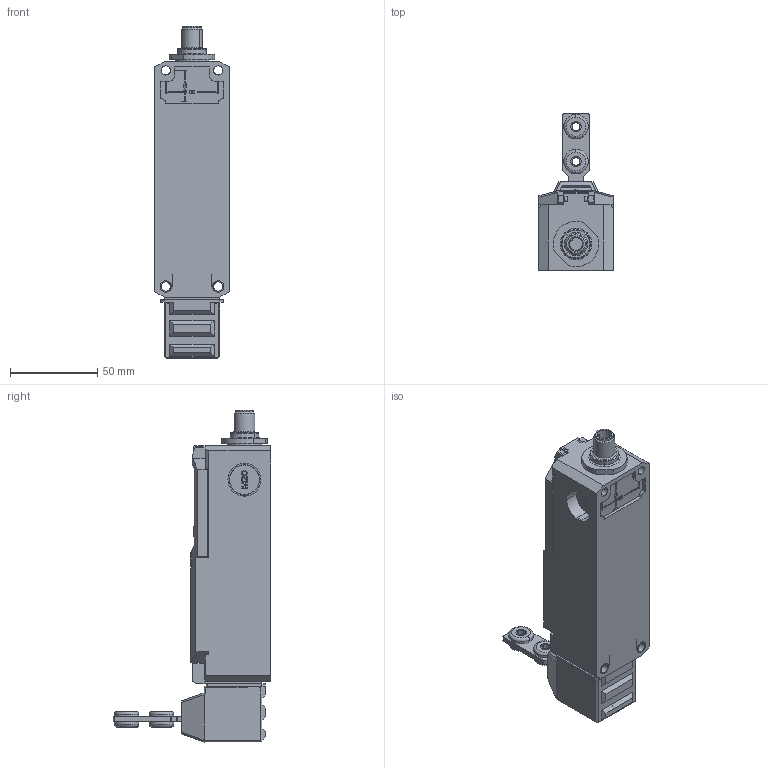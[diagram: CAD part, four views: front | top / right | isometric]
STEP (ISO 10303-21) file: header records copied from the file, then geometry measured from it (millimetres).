
FILE_DESCRIPTION((''),'2;1');
FILE_NAME('2028534_ASM','2019-08-09T',('merz'),(''),'PRO/ENGINEER BY PARAMETRIC TECHNOLOGY CORPORATION, 2016100','PRO/ENGINEER BY PARAMETRIC TECHNOLOGY CORPORATION, 2016100','');
FILE_SCHEMA(('AUTOMOTIVE_DESIGN { 1 0 10303 214 1 1 1 1 }'));
Products named in the file (4): 2028513; 2015387; 2015388; 2028534_ASM
Assembly tree (3 placements, depth 2):
  2028534_ASM
    2028513
    2015387
    2015388
Bounding box: 42.5 x 90.6 x 190.5 mm (x, y, z)
Volume: 247606 mm3; surface area: 72492.6 mm2
Topology: 4 solids, 5 shells, 1778 faces, 4948 edges, 3209 vertices
Faces by surface type: plane 1252, cylinder 379, torus 74, cone 39, sphere 25, bspline 9
Entity records: 76205 total; most frequent: CARTESIAN_POINT 10988, ORIENTED_EDGE 9826, DIRECTION 9376, PRESENTATION_STYLE_ASSIGNMENT 5368, STYLED_ITEM 4928, CURVE_STYLE 4924, EDGE_CURVE 4913, VECTOR 3736
